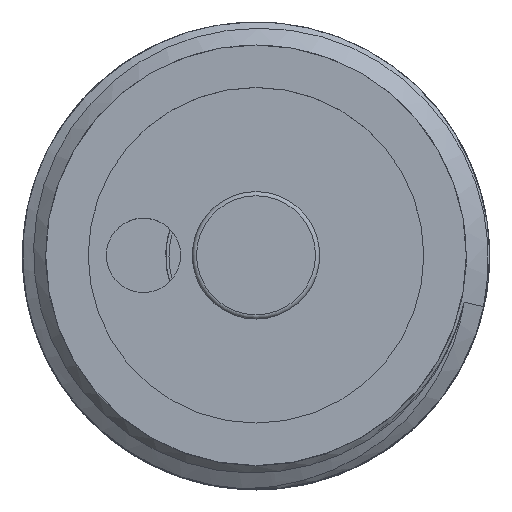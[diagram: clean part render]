
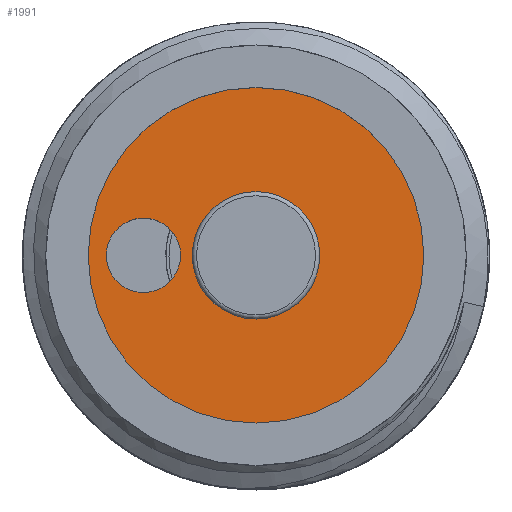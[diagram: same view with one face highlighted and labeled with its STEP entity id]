
A CAD part, top view. The second image highlights one B-rep face of the part: STEP entity #1991.
In plain terms, the highlighted planar face has unit normal (0, 0, 1).
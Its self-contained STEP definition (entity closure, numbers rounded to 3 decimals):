
#1991=ADVANCED_FACE('',(#2284,#2285,#2286),#2169,.F.);
#2169=PLANE('',#6359);
#2206=CIRCLE('',#6356,8.5);
#2207=CIRCLE('',#6357,2.);
#2208=CIRCLE('',#6358,1.75);
#2284=FACE_BOUND('',#2595,.T.);
#2285=FACE_BOUND('',#2596,.T.);
#2286=FACE_BOUND('',#2597,.T.);
#2595=EDGE_LOOP('',(#4081));
#2596=EDGE_LOOP('',(#4082));
#2597=EDGE_LOOP('',(#4083));
#4081=ORIENTED_EDGE('',*,*,#5186,.F.);
#4082=ORIENTED_EDGE('',*,*,#5187,.F.);
#4083=ORIENTED_EDGE('',*,*,#5188,.F.);
#4542=VERTEX_POINT('',#15076);
#4543=VERTEX_POINT('',#15078);
#4544=VERTEX_POINT('',#15080);
#5186=EDGE_CURVE('',#4542,#4542,#2206,.T.);
#5187=EDGE_CURVE('',#4543,#4543,#2207,.T.);
#5188=EDGE_CURVE('',#4544,#4544,#2208,.T.);
#6356=AXIS2_PLACEMENT_3D('',#15075,#7302,#7303);
#6357=AXIS2_PLACEMENT_3D('',#15077,#7304,#7305);
#6358=AXIS2_PLACEMENT_3D('',#15079,#7306,#7307);
#6359=AXIS2_PLACEMENT_3D('',#15081,#7308,#7309);
#7302=DIRECTION('',(0.,0.,-1.));
#7303=DIRECTION('',(1.,0.,0.));
#7304=DIRECTION('',(0.,0.,1.));
#7305=DIRECTION('',(1.,0.,0.));
#7306=DIRECTION('',(0.,0.,1.));
#7307=DIRECTION('',(1.,0.,0.));
#7308=DIRECTION('',(0.,0.,-1.));
#7309=DIRECTION('',(-1.,0.,0.));
#15075=CARTESIAN_POINT('',(15.188,16.823,0.));
#15076=CARTESIAN_POINT('',(23.688,16.823,0.));
#15077=CARTESIAN_POINT('',(15.188,16.823,0.));
#15078=CARTESIAN_POINT('',(17.188,16.823,0.));
#15079=CARTESIAN_POINT('',(9.888,16.823,0.));
#15080=CARTESIAN_POINT('',(11.638,16.823,0.));
#15081=CARTESIAN_POINT('',(15.188,16.823,0.));
